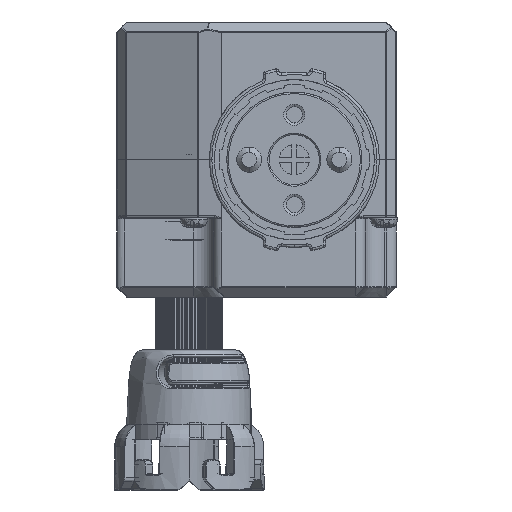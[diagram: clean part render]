
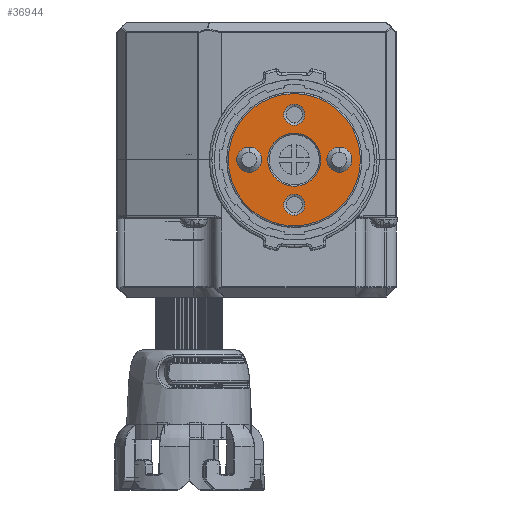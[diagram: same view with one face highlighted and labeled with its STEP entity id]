
A CAD part, front view. The second image highlights one B-rep face of the part: STEP entity #36944.
In plain terms, the highlighted planar face has unit normal (0, -1, 0).
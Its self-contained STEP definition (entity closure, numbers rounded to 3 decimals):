
#700 = CARTESIAN_POINT ( 'NONE',  ( -13.234, -460.561, 90.625 ) ) ;
#1523 = CARTESIAN_POINT ( 'NONE',  ( -13.234, -460.561, 81.625 ) ) ;
#6531 = EDGE_LOOP ( 'NONE', ( #45644, #18626 ) ) ;
#8061 = EDGE_CURVE ( 'NONE', #22690, #41240, #24500, .T. ) ;
#8422 = VERTEX_POINT ( 'NONE', #77871 ) ;
#8459 = AXIS2_PLACEMENT_3D ( 'NONE', #19548, #71871, #9522 ) ;
#8770 = CIRCLE ( 'NONE', #47157, 5.3 ) ;
#9522 = DIRECTION ( 'NONE',  ( 0., 0., -1. ) ) ;
#9684 = EDGE_CURVE ( 'NONE', #126735, #87640, #51893, .T. ) ;
#9955 = AXIS2_PLACEMENT_3D ( 'NONE', #55358, #106075, #12952 ) ;
#10819 = DIRECTION ( 'NONE',  ( 0., 1., 0. ) ) ;
#11027 = DIRECTION ( 'NONE',  ( 0., -1., 0. ) ) ;
#11989 = AXIS2_PLACEMENT_3D ( 'NONE', #121257, #29192, #38756 ) ;
#12952 = DIRECTION ( 'NONE',  ( 0., 0., -1. ) ) ;
#13891 = CIRCLE ( 'NONE', #11989, 2.5 ) ;
#15739 = PLANE ( 'NONE',  #53490 ) ;
#16161 = CARTESIAN_POINT ( 'NONE',  ( -13.234, -460.561, 90.625 ) ) ;
#18626 = ORIENTED_EDGE ( 'NONE', *, *, #8061, .T. ) ;
#18730 = CARTESIAN_POINT ( 'NONE',  ( -13.234, -460.561, 97.525 ) ) ;
#18877 = CIRCLE ( 'NONE', #54385, 2.1 ) ;
#19359 = DIRECTION ( 'NONE',  ( 0., 0., -1. ) ) ;
#19548 = CARTESIAN_POINT ( 'NONE',  ( -13.234, -460.561, 90.625 ) ) ;
#21448 = CARTESIAN_POINT ( 'NONE',  ( -4.234, -460.561, 88.125 ) ) ;
#21635 = DIRECTION ( 'NONE',  ( 0., -1., 0. ) ) ;
#22175 = CARTESIAN_POINT ( 'NONE',  ( -4.234, -460.561, 93.125 ) ) ;
#22622 = FACE_BOUND ( 'NONE', #50659, .T. ) ;
#22690 = VERTEX_POINT ( 'NONE', #131671 ) ;
#24264 = VERTEX_POINT ( 'NONE', #40514 ) ;
#24500 = CIRCLE ( 'NONE', #52219, 2.1 ) ;
#25212 = AXIS2_PLACEMENT_3D ( 'NONE', #98787, #120454, #77931 ) ;
#25573 = AXIS2_PLACEMENT_3D ( 'NONE', #79057, #108563, #119832 ) ;
#26290 = EDGE_LOOP ( 'NONE', ( #103353, #127637 ) ) ;
#27310 = EDGE_CURVE ( 'NONE', #8422, #130818, #99196, .T. ) ;
#27564 = ORIENTED_EDGE ( 'NONE', *, *, #101498, .T. ) ;
#29192 = DIRECTION ( 'NONE',  ( 0., -1., 0. ) ) ;
#29594 = FACE_BOUND ( 'NONE', #26290, .T. ) ;
#29811 = AXIS2_PLACEMENT_3D ( 'NONE', #81626, #133214, #19359 ) ;
#33205 = CARTESIAN_POINT ( 'NONE',  ( -13.234, -460.561, 79.525 ) ) ;
#36784 = CARTESIAN_POINT ( 'NONE',  ( -22.234, -460.561, 88.125 ) ) ;
#36944 = ADVANCED_FACE ( 'NONE', ( #29594, #95972, #100703, #73100, #22622, #61705 ), #15739, .T. ) ;
#38756 = DIRECTION ( 'NONE',  ( 0., 0., -1. ) ) ;
#39806 = CIRCLE ( 'NONE', #9955, 2.1 ) ;
#40514 = CARTESIAN_POINT ( 'NONE',  ( -13.234, -460.561, 85.325 ) ) ;
#41240 = VERTEX_POINT ( 'NONE', #33205 ) ;
#43052 = DIRECTION ( 'NONE',  ( 0., 0., -1. ) ) ;
#43623 = CARTESIAN_POINT ( 'NONE',  ( -13.234, -460.561, 95.925 ) ) ;
#43630 = CARTESIAN_POINT ( 'NONE',  ( -13.234, -460.561, 101.725 ) ) ;
#45644 = ORIENTED_EDGE ( 'NONE', *, *, #109207, .T. ) ;
#47157 = AXIS2_PLACEMENT_3D ( 'NONE', #103102, #10819, #73592 ) ;
#47906 = EDGE_CURVE ( 'NONE', #99748, #83205, #39806, .T. ) ;
#50508 = CIRCLE ( 'NONE', #81446, 13.2 ) ;
#50659 = EDGE_LOOP ( 'NONE', ( #131564, #82731 ) ) ;
#51893 = CIRCLE ( 'NONE', #59390, 2.5 ) ;
#52219 = AXIS2_PLACEMENT_3D ( 'NONE', #1523, #53943, #125423 ) ;
#53490 = AXIS2_PLACEMENT_3D ( 'NONE', #16161, #108802, #56303 ) ;
#53703 = CIRCLE ( 'NONE', #25212, 5.3 ) ;
#53943 = DIRECTION ( 'NONE',  ( 0., 1., 0. ) ) ;
#54385 = AXIS2_PLACEMENT_3D ( 'NONE', #58291, #129778, #67817 ) ;
#55358 = CARTESIAN_POINT ( 'NONE',  ( -13.234, -460.561, 99.625 ) ) ;
#56303 = DIRECTION ( 'NONE',  ( 0., 0., -1. ) ) ;
#58291 = CARTESIAN_POINT ( 'NONE',  ( -13.234, -460.561, 99.625 ) ) ;
#59390 = AXIS2_PLACEMENT_3D ( 'NONE', #114612, #11027, #63378 ) ;
#61705 = FACE_OUTER_BOUND ( 'NONE', #96441, .T. ) ;
#63378 = DIRECTION ( 'NONE',  ( 0., 0., -1. ) ) ;
#64304 = ORIENTED_EDGE ( 'NONE', *, *, #108192, .F. ) ;
#65962 = VERTEX_POINT ( 'NONE', #43623 ) ;
#67817 = DIRECTION ( 'NONE',  ( 0., 0., -1. ) ) ;
#71871 = DIRECTION ( 'NONE',  ( 0., -1., 0. ) ) ;
#73100 = FACE_BOUND ( 'NONE', #117769, .T. ) ;
#73301 = ORIENTED_EDGE ( 'NONE', *, *, #47906, .T. ) ;
#73592 = DIRECTION ( 'NONE',  ( 0., 0., -1. ) ) ;
#77224 = CIRCLE ( 'NONE', #126870, 2.5 ) ;
#77871 = CARTESIAN_POINT ( 'NONE',  ( -13.234, -460.561, 77.425 ) ) ;
#77931 = DIRECTION ( 'NONE',  ( 0., 0., -1. ) ) ;
#79057 = CARTESIAN_POINT ( 'NONE',  ( -13.234, -460.561, 81.625 ) ) ;
#79874 = EDGE_CURVE ( 'NONE', #83205, #99748, #18877, .T. ) ;
#81446 = AXIS2_PLACEMENT_3D ( 'NONE', #700, #21635, #43052 ) ;
#81626 = CARTESIAN_POINT ( 'NONE',  ( -4.234, -460.561, 90.625 ) ) ;
#82092 = ORIENTED_EDGE ( 'NONE', *, *, #27310, .T. ) ;
#82183 = CIRCLE ( 'NONE', #25573, 2.1 ) ;
#82731 = ORIENTED_EDGE ( 'NONE', *, *, #133769, .F. ) ;
#83082 = EDGE_LOOP ( 'NONE', ( #101209, #73301 ) ) ;
#83205 = VERTEX_POINT ( 'NONE', #18730 ) ;
#84689 = EDGE_CURVE ( 'NONE', #24264, #65962, #53703, .T. ) ;
#85697 = CIRCLE ( 'NONE', #29811, 2.5 ) ;
#87640 = VERTEX_POINT ( 'NONE', #22175 ) ;
#95972 = FACE_BOUND ( 'NONE', #6531, .T. ) ;
#96441 = EDGE_LOOP ( 'NONE', ( #82092, #27564 ) ) ;
#98787 = CARTESIAN_POINT ( 'NONE',  ( -13.234, -460.561, 90.625 ) ) ;
#99196 = CIRCLE ( 'NONE', #8459, 13.2 ) ;
#99748 = VERTEX_POINT ( 'NONE', #43630 ) ;
#100703 = FACE_BOUND ( 'NONE', #83082, .T. ) ;
#101209 = ORIENTED_EDGE ( 'NONE', *, *, #79874, .T. ) ;
#101498 = EDGE_CURVE ( 'NONE', #130818, #8422, #50508, .T. ) ;
#103102 = CARTESIAN_POINT ( 'NONE',  ( -13.234, -460.561, 90.625 ) ) ;
#103353 = ORIENTED_EDGE ( 'NONE', *, *, #84689, .T. ) ;
#103688 = CARTESIAN_POINT ( 'NONE',  ( -22.234, -460.561, 90.625 ) ) ;
#106075 = DIRECTION ( 'NONE',  ( 0., 1., 0. ) ) ;
#108192 = EDGE_CURVE ( 'NONE', #87640, #126735, #85697, .T. ) ;
#108563 = DIRECTION ( 'NONE',  ( 0., 1., 0. ) ) ;
#108802 = DIRECTION ( 'NONE',  ( 0., -1., 0. ) ) ;
#109113 = CARTESIAN_POINT ( 'NONE',  ( -22.234, -460.561, 93.125 ) ) ;
#109207 = EDGE_CURVE ( 'NONE', #41240, #22690, #82183, .T. ) ;
#112371 = VERTEX_POINT ( 'NONE', #36784 ) ;
#113674 = DIRECTION ( 'NONE',  ( 0., 0., -1. ) ) ;
#114612 = CARTESIAN_POINT ( 'NONE',  ( -4.234, -460.561, 90.625 ) ) ;
#115560 = EDGE_CURVE ( 'NONE', #122670, #112371, #77224, .T. ) ;
#117769 = EDGE_LOOP ( 'NONE', ( #64304, #119086 ) ) ;
#119086 = ORIENTED_EDGE ( 'NONE', *, *, #9684, .F. ) ;
#119832 = DIRECTION ( 'NONE',  ( 0., 0., -1. ) ) ;
#120454 = DIRECTION ( 'NONE',  ( 0., 1., 0. ) ) ;
#121257 = CARTESIAN_POINT ( 'NONE',  ( -22.234, -460.561, 90.625 ) ) ;
#122670 = VERTEX_POINT ( 'NONE', #109113 ) ;
#125423 = DIRECTION ( 'NONE',  ( 0., 0., -1. ) ) ;
#125767 = DIRECTION ( 'NONE',  ( 0., -1., 0. ) ) ;
#126735 = VERTEX_POINT ( 'NONE', #21448 ) ;
#126870 = AXIS2_PLACEMENT_3D ( 'NONE', #103688, #125767, #113674 ) ;
#127019 = EDGE_CURVE ( 'NONE', #65962, #24264, #8770, .T. ) ;
#127637 = ORIENTED_EDGE ( 'NONE', *, *, #127019, .T. ) ;
#129322 = CARTESIAN_POINT ( 'NONE',  ( -13.234, -460.561, 103.825 ) ) ;
#129778 = DIRECTION ( 'NONE',  ( 0., 1., 0. ) ) ;
#130818 = VERTEX_POINT ( 'NONE', #129322 ) ;
#131564 = ORIENTED_EDGE ( 'NONE', *, *, #115560, .F. ) ;
#131671 = CARTESIAN_POINT ( 'NONE',  ( -13.234, -460.561, 83.725 ) ) ;
#133214 = DIRECTION ( 'NONE',  ( 0., -1., 0. ) ) ;
#133769 = EDGE_CURVE ( 'NONE', #112371, #122670, #13891, .T. ) ;
